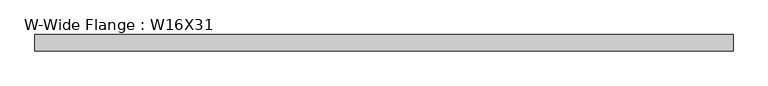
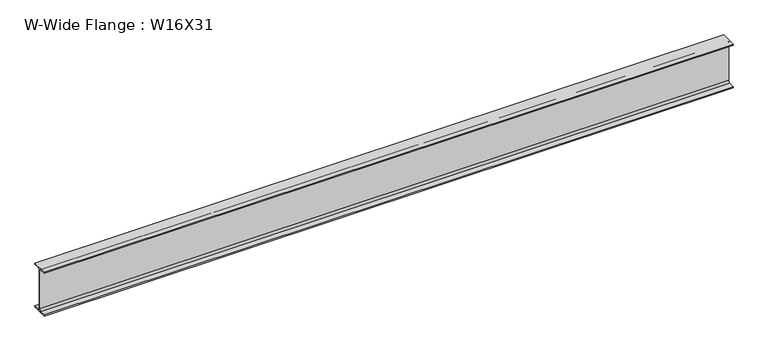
"""IFC4 building model written with IfcOpenShell, lengths in millimetres: beam geometry, W-Wide Flange : W16X31."""

from ifc_helpers import new_model, si_unit, point, frame, frame_2d, origin, place, context, project, spatial, polyline, circle_curve, trimmed, segment, composite_curve, outline, extrude, source, transform, mapped, element, save


def w_wide_flange_w16x31_b4dcfb4a(model_context):
    return source(origin(), model_context, "Body", "SweptSolid", [
        extrude(outline(composite_curve([segment(polyline([(-70.231, -190.754), (-20.8915, -190.754)]), True, "CONTINUOUS"), segment(trimmed(circle_curve(frame_2d((-20.8915, -173.355)), 17.399), [point((-20.8915, -190.754))], [point((-3.4925, -173.355))], True, "CARTESIAN"), True, "CONTINUOUS"), segment(polyline([(-3.4925, -173.355), (-3.4925, 173.355)]), True, "CONTINUOUS"), segment(trimmed(circle_curve(frame_2d((-20.8915, 173.355)), 17.399), [point((-3.4925, 173.355))], [point((-20.8915, 190.754))], True, "CARTESIAN"), True, "CONTINUOUS"), segment(polyline([(-20.8915, 190.754), (-70.231, 190.754), (-70.231, 201.93), (70.231, 201.93), (70.231, 190.754), (20.8915, 190.754)]), True, "CONTINUOUS"), segment(trimmed(circle_curve(frame_2d((20.8915, 173.355)), 17.399), [point((20.8915, 190.754))], [point((3.4925, 173.355))], True, "CARTESIAN"), True, "CONTINUOUS"), segment(polyline([(3.4925, 173.355), (3.4925, -173.355)]), True, "CONTINUOUS"), segment(trimmed(circle_curve(frame_2d((20.8915, -173.355)), 17.399), [point((3.4925, -173.355))], [point((20.8915, -190.754))], True, "CARTESIAN"), True, "CONTINUOUS"), segment(polyline([(20.8915, -190.754), (70.231, -190.754), (70.231, -201.93), (-70.231, -201.93), (-70.231, -190.754)]), True, "CONTINUOUS")], self_intersect=False)), frame((-3033.8143174, 0.0, 0.0), z_axis=(1.0, 0.0, 0.0), x_axis=(0.0, 1.0, 0.0)), (0.0, 0.0, 1.0), 6010.4786348),
    ])


if __name__ == "__main__":
    model = new_model("IFC4")
    model_context = context("Model", 3, world=origin())
    ifc_project = project(units=[si_unit("LENGTHUNIT", "METRE", prefix="MILLI")], contexts=[model_context])
    site = spatial("IfcSite", under=ifc_project)
    building = spatial("IfcBuilding", under=site)
    placement = place(None, origin())
    w_wide_flange_w16x31_shape = w_wide_flange_w16x31_b4dcfb4a(model_context)
    element("IfcBeam", 1, ObjectType="W-Wide Flange : W16X31", at=placement, inside=building, context=model_context, shape_type="MappedRepresentation", body=[
        mapped(w_wide_flange_w16x31_shape, transform((0.0, 0.0, 0.0), x_axis=(1.0, 0.0, 0.0), y_axis=(0.0, 1.0, 0.0), z_axis=(0.0, 0.0, 1.0))),
    ])
    save(model, "model.ifc")
